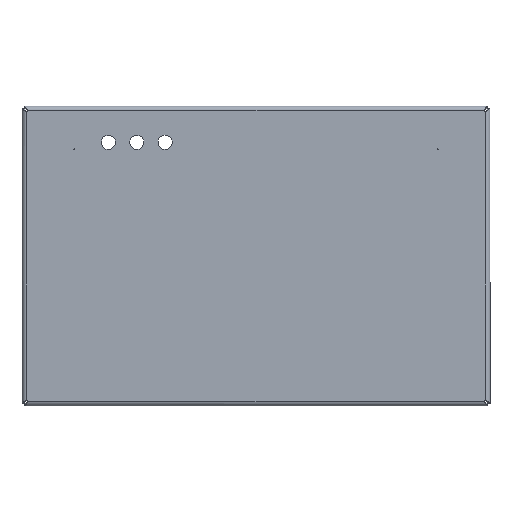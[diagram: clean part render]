
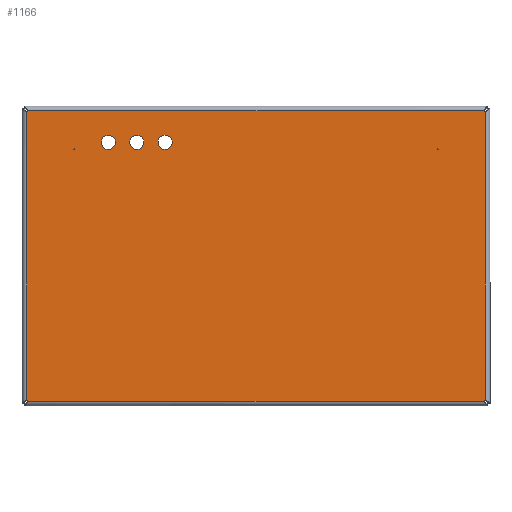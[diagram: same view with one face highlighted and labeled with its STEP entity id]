
A CAD part, top view. The second image highlights one B-rep face of the part: STEP entity #1166.
In plain terms, the highlighted planar face has unit normal (0, 0, 1).
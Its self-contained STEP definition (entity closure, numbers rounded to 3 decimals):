
#27 = VERTEX_POINT ( 'NONE', #2106 ) ;
#36 = EDGE_CURVE ( 'NONE', #1218, #2209, #541, .T. ) ;
#50 = VECTOR ( 'NONE', #434, 1000. ) ;
#66 = CARTESIAN_POINT ( 'NONE',  ( -201., 128., 0. ) ) ;
#115 = EDGE_CURVE ( 'NONE', #27, #309, #786, .T. ) ;
#140 = CARTESIAN_POINT ( 'NONE',  ( -202., -128., 0. ) ) ;
#150 = EDGE_CURVE ( 'NONE', #1579, #1579, #1451, .T. ) ;
#160 = ORIENTED_EDGE ( 'NONE', *, *, #645, .T. ) ;
#172 = EDGE_LOOP ( 'NONE', ( #160 ) ) ;
#180 = CARTESIAN_POINT ( 'NONE',  ( 159.75, 94., 0. ) ) ;
#207 = VERTEX_POINT ( 'NONE', #180 ) ;
#219 = CIRCLE ( 'NONE', #349, 6.25 ) ;
#266 = DIRECTION ( 'NONE',  ( 0., 0., -1. ) ) ;
#309 = VERTEX_POINT ( 'NONE', #2450 ) ;
#315 = EDGE_LOOP ( 'NONE', ( #911 ) ) ;
#319 = DIRECTION ( 'NONE',  ( 0., -1., 0. ) ) ;
#333 = LINE ( 'NONE', #1949, #1666 ) ;
#337 = EDGE_CURVE ( 'NONE', #1025, #27, #1284, .T. ) ;
#340 = CARTESIAN_POINT ( 'NONE',  ( -130., 100., 0. ) ) ;
#349 = AXIS2_PLACEMENT_3D ( 'NONE', #862, #1017, #2248 ) ;
#350 = DIRECTION ( 'NONE',  ( 0., 1., 0. ) ) ;
#356 = EDGE_CURVE ( 'NONE', #309, #544, #333, .T. ) ;
#361 = EDGE_LOOP ( 'NONE', ( #1747, #2369, #2326, #921, #1566, #1920, #2405, #1958 ) ) ;
#371 = VERTEX_POINT ( 'NONE', #1300 ) ;
#376 = DIRECTION ( 'NONE',  ( 0., 0., 1. ) ) ;
#418 = CARTESIAN_POINT ( 'NONE',  ( 202., 127., 0. ) ) ;
#434 = DIRECTION ( 'NONE',  ( 1., 0., 0. ) ) ;
#435 = VERTEX_POINT ( 'NONE', #1776 ) ;
#450 = PLANE ( 'NONE',  #1771 ) ;
#507 = AXIS2_PLACEMENT_3D ( 'NONE', #2391, #759, #2195 ) ;
#527 = DIRECTION ( 'NONE',  ( 0., 0., 1. ) ) ;
#535 = ORIENTED_EDGE ( 'NONE', *, *, #1014, .F. ) ;
#541 = CIRCLE ( 'NONE', #661, 1. ) ;
#544 = VERTEX_POINT ( 'NONE', #1309 ) ;
#549 = EDGE_CURVE ( 'NONE', #544, #435, #2135, .T. ) ;
#559 = DIRECTION ( 'NONE',  ( 1., 0., 0. ) ) ;
#582 = DIRECTION ( 'NONE',  ( 0., 0., -1. ) ) ;
#604 = AXIS2_PLACEMENT_3D ( 'NONE', #1789, #1988, #2379 ) ;
#622 = FACE_BOUND ( 'NONE', #2422, .T. ) ;
#645 = EDGE_CURVE ( 'NONE', #207, #207, #1625, .T. ) ;
#661 = AXIS2_PLACEMENT_3D ( 'NONE', #2471, #665, #2459 ) ;
#665 = DIRECTION ( 'NONE',  ( 0., 0., 1. ) ) ;
#721 = CIRCLE ( 'NONE', #604, 0.25 ) ;
#740 = LINE ( 'NONE', #140, #1260 ) ;
#759 = DIRECTION ( 'NONE',  ( 0., 0., 1. ) ) ;
#772 = CARTESIAN_POINT ( 'NONE',  ( 160., 94., 0. ) ) ;
#786 = CIRCLE ( 'NONE', #1078, 1. ) ;
#807 = VERTEX_POINT ( 'NONE', #2390 ) ;
#862 = CARTESIAN_POINT ( 'NONE',  ( -80., 100., 0. ) ) ;
#911 = ORIENTED_EDGE ( 'NONE', *, *, #1226, .F. ) ;
#921 = ORIENTED_EDGE ( 'NONE', *, *, #36, .F. ) ;
#944 = CARTESIAN_POINT ( 'NONE',  ( 202., 128., 0. ) ) ;
#983 = CARTESIAN_POINT ( 'NONE',  ( -98.75, 100., 0. ) ) ;
#1014 = EDGE_CURVE ( 'NONE', #2194, #2194, #1085, .T. ) ;
#1017 = DIRECTION ( 'NONE',  ( 0., 0., 1. ) ) ;
#1024 = CARTESIAN_POINT ( 'NONE',  ( 0., 0., 0. ) ) ;
#1025 = VERTEX_POINT ( 'NONE', #418 ) ;
#1037 = DIRECTION ( 'NONE',  ( -1., 0., 0. ) ) ;
#1043 = AXIS2_PLACEMENT_3D ( 'NONE', #1896, #527, #559 ) ;
#1044 = ORIENTED_EDGE ( 'NONE', *, *, #150, .F. ) ;
#1078 = AXIS2_PLACEMENT_3D ( 'NONE', #1967, #1175, #1939 ) ;
#1085 = CIRCLE ( 'NONE', #507, 6.25 ) ;
#1130 = DIRECTION ( 'NONE',  ( -1., 0., 0. ) ) ;
#1136 = DIRECTION ( 'NONE',  ( 0., 0., 1. ) ) ;
#1166 = ADVANCED_FACE ( 'NONE', ( #1242, #622, #1825, #1850, #1419, #1835 ), #450, .F. ) ;
#1175 = DIRECTION ( 'NONE',  ( 0., 0., 1. ) ) ;
#1218 = VERTEX_POINT ( 'NONE', #2042 ) ;
#1226 = EDGE_CURVE ( 'NONE', #1590, #1590, #219, .T. ) ;
#1242 = FACE_BOUND ( 'NONE', #172, .T. ) ;
#1260 = VECTOR ( 'NONE', #350, 1000. ) ;
#1284 = LINE ( 'NONE', #1888, #1333 ) ;
#1291 = AXIS2_PLACEMENT_3D ( 'NONE', #340, #1136, #1745 ) ;
#1300 = CARTESIAN_POINT ( 'NONE',  ( 201., 128., 0. ) ) ;
#1309 = CARTESIAN_POINT ( 'NONE',  ( -201., -128., 0. ) ) ;
#1330 = ORIENTED_EDGE ( 'NONE', *, *, #1779, .T. ) ;
#1333 = VECTOR ( 'NONE', #319, 1000. ) ;
#1419 = FACE_BOUND ( 'NONE', #2210, .T. ) ;
#1451 = CIRCLE ( 'NONE', #1291, 6.25 ) ;
#1566 = ORIENTED_EDGE ( 'NONE', *, *, #1623, .F. ) ;
#1579 = VERTEX_POINT ( 'NONE', #2412 ) ;
#1590 = VERTEX_POINT ( 'NONE', #1804 ) ;
#1623 = EDGE_CURVE ( 'NONE', #435, #1218, #740, .T. ) ;
#1625 = CIRCLE ( 'NONE', #2044, 0.25 ) ;
#1640 = AXIS2_PLACEMENT_3D ( 'NONE', #944, #376, #2115 ) ;
#1666 = VECTOR ( 'NONE', #1130, 1000. ) ;
#1745 = DIRECTION ( 'NONE',  ( 1., 0., 0. ) ) ;
#1747 = ORIENTED_EDGE ( 'NONE', *, *, #337, .F. ) ;
#1771 = AXIS2_PLACEMENT_3D ( 'NONE', #1024, #266, #1037 ) ;
#1776 = CARTESIAN_POINT ( 'NONE',  ( -202., -127., 0. ) ) ;
#1779 = EDGE_CURVE ( 'NONE', #807, #807, #721, .T. ) ;
#1789 = CARTESIAN_POINT ( 'NONE',  ( -160., 94., 0. ) ) ;
#1804 = CARTESIAN_POINT ( 'NONE',  ( -73.75, 100., 0. ) ) ;
#1821 = EDGE_CURVE ( 'NONE', #2209, #371, #2017, .T. ) ;
#1825 = FACE_BOUND ( 'NONE', #315, .T. ) ;
#1835 = FACE_BOUND ( 'NONE', #2377, .T. ) ;
#1850 = FACE_OUTER_BOUND ( 'NONE', #361, .T. ) ;
#1869 = CARTESIAN_POINT ( 'NONE',  ( -202., 128., 0. ) ) ;
#1888 = CARTESIAN_POINT ( 'NONE',  ( 202., 128., 0. ) ) ;
#1896 = CARTESIAN_POINT ( 'NONE',  ( -202., -128., 0. ) ) ;
#1920 = ORIENTED_EDGE ( 'NONE', *, *, #549, .F. ) ;
#1939 = DIRECTION ( 'NONE',  ( 1., 0., 0. ) ) ;
#1949 = CARTESIAN_POINT ( 'NONE',  ( 202., -128., 0. ) ) ;
#1958 = ORIENTED_EDGE ( 'NONE', *, *, #115, .F. ) ;
#1967 = CARTESIAN_POINT ( 'NONE',  ( 202., -128., 0. ) ) ;
#1988 = DIRECTION ( 'NONE',  ( 0., 0., -1. ) ) ;
#2017 = LINE ( 'NONE', #1869, #50 ) ;
#2042 = CARTESIAN_POINT ( 'NONE',  ( -202., 127., 0. ) ) ;
#2044 = AXIS2_PLACEMENT_3D ( 'NONE', #772, #582, #2208 ) ;
#2106 = CARTESIAN_POINT ( 'NONE',  ( 202., -127., 0. ) ) ;
#2115 = DIRECTION ( 'NONE',  ( 1., 0., 0. ) ) ;
#2135 = CIRCLE ( 'NONE', #1043, 1. ) ;
#2187 = CIRCLE ( 'NONE', #1640, 1. ) ;
#2194 = VERTEX_POINT ( 'NONE', #983 ) ;
#2195 = DIRECTION ( 'NONE',  ( 1., 0., 0. ) ) ;
#2208 = DIRECTION ( 'NONE',  ( -1., 0., 0. ) ) ;
#2209 = VERTEX_POINT ( 'NONE', #66 ) ;
#2210 = EDGE_LOOP ( 'NONE', ( #1044 ) ) ;
#2248 = DIRECTION ( 'NONE',  ( 1., 0., 0. ) ) ;
#2326 = ORIENTED_EDGE ( 'NONE', *, *, #1821, .F. ) ;
#2360 = EDGE_CURVE ( 'NONE', #371, #1025, #2187, .T. ) ;
#2369 = ORIENTED_EDGE ( 'NONE', *, *, #2360, .F. ) ;
#2377 = EDGE_LOOP ( 'NONE', ( #535 ) ) ;
#2379 = DIRECTION ( 'NONE',  ( -1., 0., 0. ) ) ;
#2390 = CARTESIAN_POINT ( 'NONE',  ( -160.25, 94., 0. ) ) ;
#2391 = CARTESIAN_POINT ( 'NONE',  ( -105., 100., 0. ) ) ;
#2405 = ORIENTED_EDGE ( 'NONE', *, *, #356, .F. ) ;
#2412 = CARTESIAN_POINT ( 'NONE',  ( -123.75, 100., 0. ) ) ;
#2422 = EDGE_LOOP ( 'NONE', ( #1330 ) ) ;
#2450 = CARTESIAN_POINT ( 'NONE',  ( 201., -128., 0. ) ) ;
#2459 = DIRECTION ( 'NONE',  ( 1., 0., 0. ) ) ;
#2471 = CARTESIAN_POINT ( 'NONE',  ( -202., 128., 0. ) ) ;
